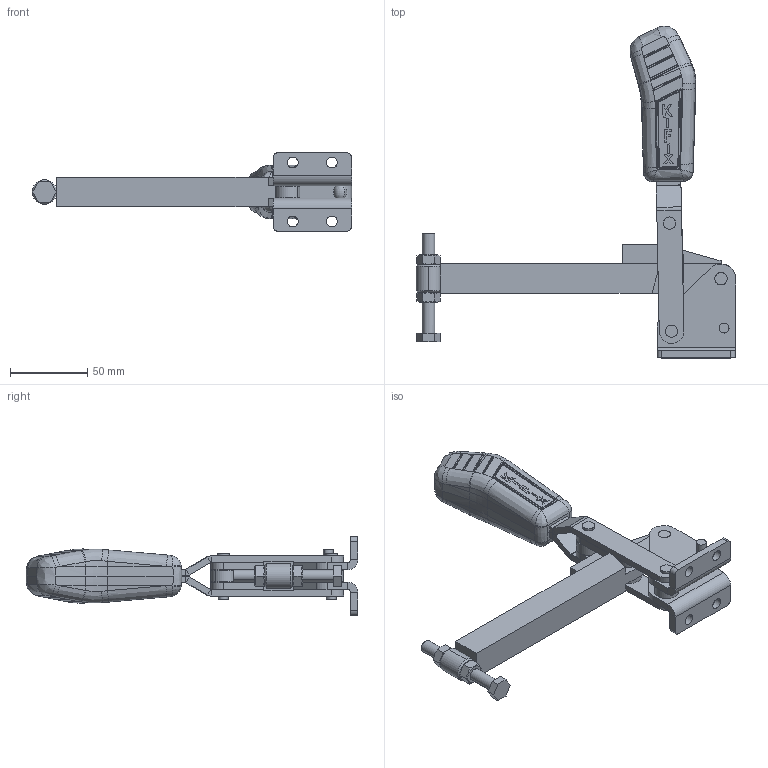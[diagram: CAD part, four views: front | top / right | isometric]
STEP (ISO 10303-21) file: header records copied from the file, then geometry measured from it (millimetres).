
FILE_DESCRIPTION (( 'STEP AP203' ), '1' );
FILE_NAME ('KF-615 BL.STEP', '2014-10-24T17:32:14', ( 'Ricardo' ), ( '' ), 'SwSTEP 2.0', 'SolidWorks 2014', '' );
FILE_SCHEMA (( 'CONFIG_CONTROL_DESIGN' ));
Length unit declared in the file: millimetre
Products named in the file (16): 12.50020; 03.15037_Montagem; 11.50002; 01.10104_Montagem; PSB-M8; 08.10017; 04.20014; 05.20012; 15.10107; 3670000061; KF-615 BL; 3670000073; 07.60002; 02.12071_Direita; 20.20004; 02.12071_Esquerda
Assembly tree (21 placements, depth 3):
  KF-615 BL
    02.12071_Direita
    02.12071_Esquerda
    03.15037_Montagem
    01.10104_Montagem  x2
    08.10017  x2
    05.20012  x2
    3670000061  x2
    3670000073  x2
    07.60002
    PSB-M8
      20.20004
      12.50020
      11.50002  x2
    04.20014
    15.10107
Bounding box: 206.88 x 214.98 x 50.8 mm (x, y, z)
Volume: 215979.4 mm3; surface area: 76103.2 mm2
Topology: 20 solids, 20 shells, 680 faces, 1660 edges, 1039 vertices
Faces by surface type: plane 252, cylinder 176, bspline 157, sphere 52, cone 38, torus 5
Entity records: 23474 total; most frequent: CARTESIAN_POINT 8821, ORIENTED_EDGE 2908, DIRECTION 2287, EDGE_CURVE 1454, VERTEX_POINT 915, AXIS2_PLACEMENT_3D 874, EDGE_LOOP 661, FACE_OUTER_BOUND 594
